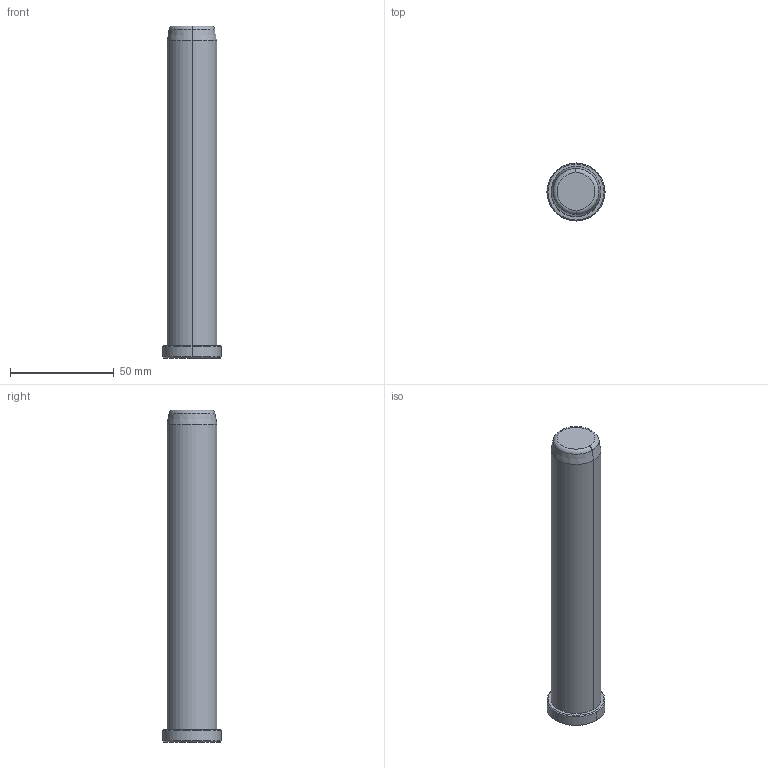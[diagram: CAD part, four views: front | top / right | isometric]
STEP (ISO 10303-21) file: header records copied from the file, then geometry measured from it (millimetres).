
FILE_DESCRIPTION((''),'2;1');
FILE_NAME('B81824160','2018-01-06T',('MANU'),(''),'PRO/ENGINEER BY PARAMETRIC TECHNOLOGY CORPORATION, 2012130','PRO/ENGINEER BY PARAMETRIC TECHNOLOGY CORPORATION, 2012130','');
FILE_SCHEMA(('CONFIG_CONTROL_DESIGN'));
Length unit declared in the file: millimetre
Products named in the file (1): B81824160
Bounding box: 28 x 28 x 160 mm (x, y, z)
Volume: 72989.1 mm3; surface area: 13171.2 mm2
Topology: 1 solids, 1 shells, 15 faces, 28 edges, 16 vertices
Faces by surface type: cone 6, cylinder 4, plane 3, torus 2
Entity records: 414 total; most frequent: DIRECTION 76, CARTESIAN_POINT 59, ORIENTED_EDGE 56, AXIS2_PLACEMENT_3D 33, EDGE_CURVE 28, CIRCLE 18, VERTEX_POINT 16, EDGE_LOOP 16
